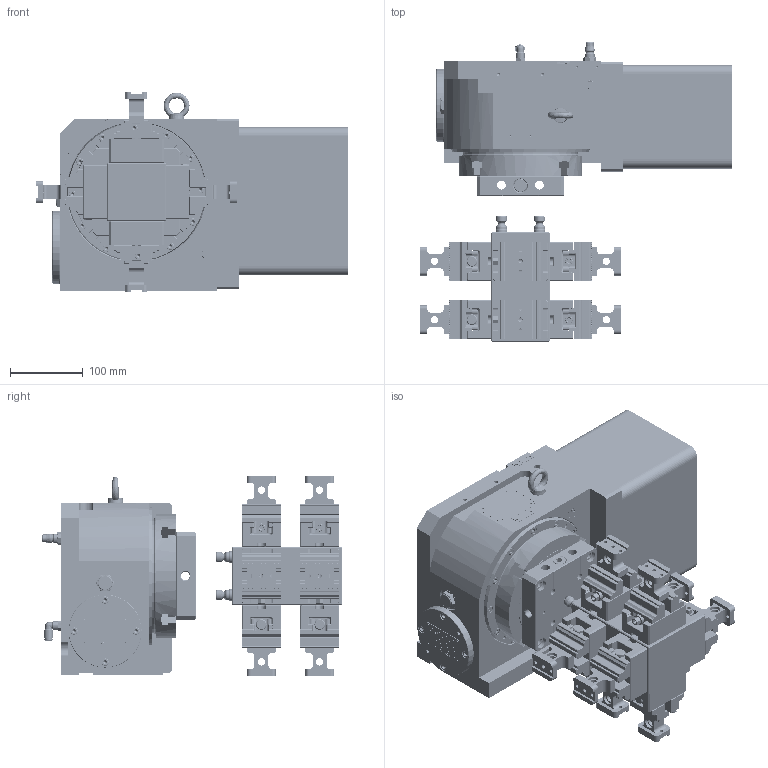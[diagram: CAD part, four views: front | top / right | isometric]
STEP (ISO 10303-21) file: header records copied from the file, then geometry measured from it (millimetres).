
FILE_DESCRIPTION(/* description */ (''),/* implementation_level */ '2;1');
FILE_NAME(/* name */ '',/* time_stamp */ '2021-07-03T16:05:18+08:00',/* author */ (''),/* organization */ (''),/* preprocessor_version */ 'ST-DEVELOPER v11',/* originating_system */ 'SIEMENS PLM Software NX 7.0',/* authorisation */ '');
FILE_SCHEMA (('CONFIG_CONTROL_DESIGN'));
Products named in the file (1): Admi1727gd6v
Bounding box: 427.7 x 410 x 275.4 mm (x, y, z)
Volume: 13282025.9 mm3; surface area: 1330976.5 mm2
Topology: 35 solids, 129 shells, 13874 faces, 36643 edges, 23533 vertices
Faces by surface type: plane 7641, cylinder 3281, cone 1426, extrusion 1197, torus 236, bspline 88, sphere 5
Full cylindrical faces by diameter (mm): 4.2 x36, 4.5 x34, 5 x114, 5.2 x8, 6 x33, 6.8 x4, 8 x4, 8.7 x8, 9 x32, 10 x9, 10.444 x8, 11 x5, 12 x15, 13.2 x2, 14 x26, 14.1 x16, 14.444 x16, 14.8 x1, 15 x12, 15.5 x4, 15.7 x4, 16 x12, 17.8 x2, 18 x4, 18.2 x1
Entity records: 473981 total; most frequent: CARTESIAN_POINT 139839, ORIENTED_EDGE 70780, DIRECTION 64631, EDGE_CURVE 35390, VERTEX_POINT 23326, VECTOR 23273, LINE 22076, AXIS2_PLACEMENT_3D 20679
